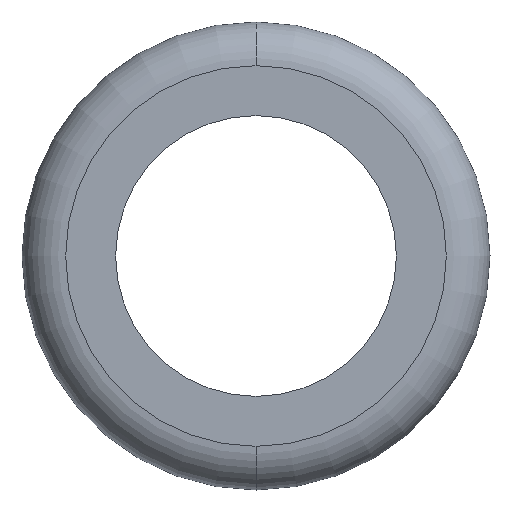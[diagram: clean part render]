
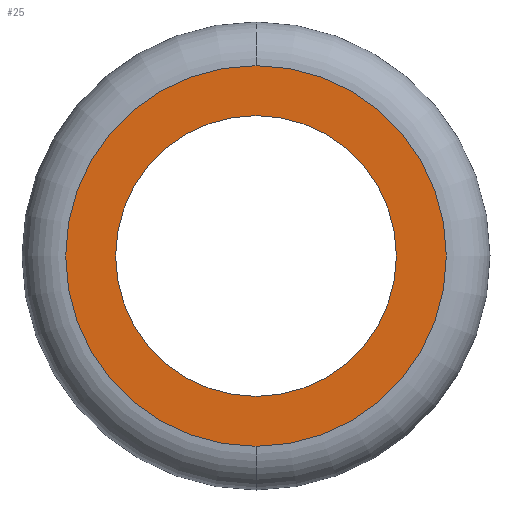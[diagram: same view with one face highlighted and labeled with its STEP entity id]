
A CAD part, front view. The second image highlights one B-rep face of the part: STEP entity #25.
In plain terms, the highlighted planar face has unit normal (0, -1, 0).
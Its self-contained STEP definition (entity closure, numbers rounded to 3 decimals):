
#7 = ORIENTED_EDGE ( 'NONE', *, *, #10, .T. ) ;
#10 = EDGE_CURVE ( 'NONE', #299, #12, #106, .T. ) ;
#12 = VERTEX_POINT ( 'NONE', #164 ) ;
#25 = ADVANCED_FACE ( 'NONE', ( #217, #218 ), #219, .T. ) ;
#28 = VERTEX_POINT ( 'NONE', #251 ) ;
#30 = EDGE_CURVE ( 'NONE', #12, #299, #257, .T. ) ;
#40 = EDGE_CURVE ( 'NONE', #409, #28, #73, .T. ) ;
#54 = ORIENTED_EDGE ( 'NONE', *, *, #40, .F. ) ;
#59 = EDGE_CURVE ( 'NONE', #28, #409, #139, .T. ) ;
#61 = ORIENTED_EDGE ( 'NONE', *, *, #30, .T. ) ;
#73 = CIRCLE ( 'NONE', #74, 30.5 ) ;
#74 = AXIS2_PLACEMENT_3D ( 'NONE', #75, #76, #77 ) ;
#75 = CARTESIAN_POINT ( 'NONE',  ( 0., -8.5, 0. ) ) ;
#76 = DIRECTION ( 'NONE',  ( 0., 1., 0. ) ) ;
#77 = DIRECTION ( 'NONE',  ( 0., 0., 1. ) ) ;
#106 = CIRCLE ( 'NONE', #107, 22.5 ) ;
#107 = AXIS2_PLACEMENT_3D ( 'NONE', #108, #109, #110 ) ;
#108 = CARTESIAN_POINT ( 'NONE',  ( 0., -8.5, 0. ) ) ;
#109 = DIRECTION ( 'NONE',  ( 0., 1., 0. ) ) ;
#110 = DIRECTION ( 'NONE',  ( 0., 0., 1. ) ) ;
#132 = CARTESIAN_POINT ( 'NONE',  ( 0., -8.5, -30.5 ) ) ;
#139 = CIRCLE ( 'NONE', #140, 30.5 ) ;
#140 = AXIS2_PLACEMENT_3D ( 'NONE', #141, #142, #143 ) ;
#141 = CARTESIAN_POINT ( 'NONE',  ( 0., -8.5, 0. ) ) ;
#142 = DIRECTION ( 'NONE',  ( 0., 1., 0. ) ) ;
#143 = DIRECTION ( 'NONE',  ( 0., 0., 1. ) ) ;
#164 = CARTESIAN_POINT ( 'NONE',  ( 0., -8.5, 22.5 ) ) ;
#217 = FACE_BOUND ( 'NONE', #333, .T. ) ;
#218 = FACE_OUTER_BOUND ( 'NONE', #226, .T. ) ;
#219 = PLANE ( 'NONE',  #220 ) ;
#220 = AXIS2_PLACEMENT_3D ( 'NONE', #221, #222, #223 ) ;
#221 = CARTESIAN_POINT ( 'NONE',  ( -30.5, -8.5, 0. ) ) ;
#222 = DIRECTION ( 'NONE',  ( 0., -1., 0. ) ) ;
#223 = DIRECTION ( 'NONE',  ( 0., 0., -1. ) ) ;
#226 = EDGE_LOOP ( 'NONE', ( #400, #54 ) ) ;
#251 = CARTESIAN_POINT ( 'NONE',  ( 0., -8.5, 30.5 ) ) ;
#257 = CIRCLE ( 'NONE', #258, 22.5 ) ;
#258 = AXIS2_PLACEMENT_3D ( 'NONE', #259, #260, #261 ) ;
#259 = CARTESIAN_POINT ( 'NONE',  ( 0., -8.5, 0. ) ) ;
#260 = DIRECTION ( 'NONE',  ( 0., 1., 0. ) ) ;
#261 = DIRECTION ( 'NONE',  ( 0., 0., 1. ) ) ;
#270 = CARTESIAN_POINT ( 'NONE',  ( 0., -8.5, -22.5 ) ) ;
#299 = VERTEX_POINT ( 'NONE', #270 ) ;
#333 = EDGE_LOOP ( 'NONE', ( #61, #7 ) ) ;
#400 = ORIENTED_EDGE ( 'NONE', *, *, #59, .F. ) ;
#409 = VERTEX_POINT ( 'NONE', #132 ) ;
